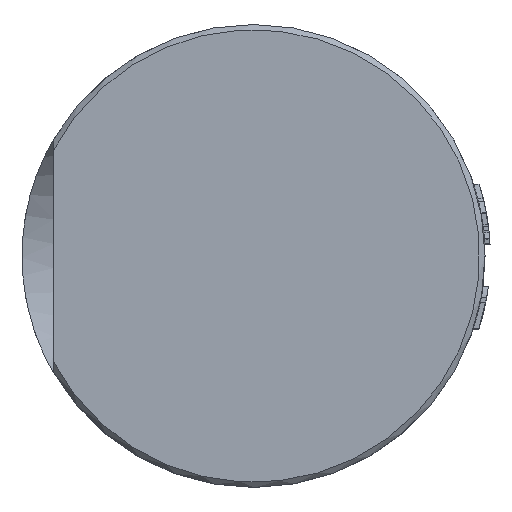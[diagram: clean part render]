
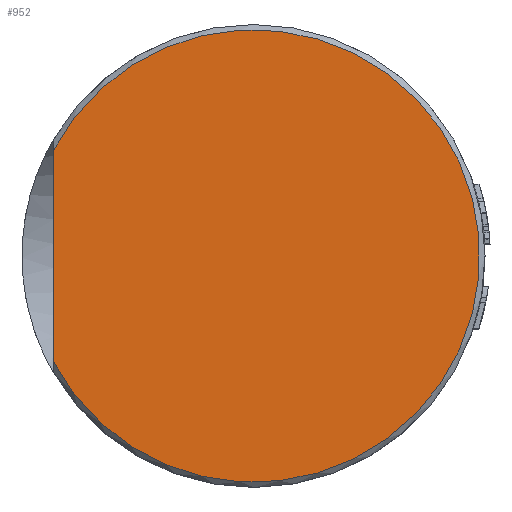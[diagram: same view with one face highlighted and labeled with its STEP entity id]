
A CAD part, front view. The second image highlights one B-rep face of the part: STEP entity #952.
In plain terms, the highlighted planar face has unit normal (0, -1, 0).
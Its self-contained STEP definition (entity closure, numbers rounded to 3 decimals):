
#263=CIRCLE('',#6281,21.5);
#541=PLANE('',#6283);
#669=LINE('',#26414,#1313);
#952=ADVANCED_FACE('',(#1600),#541,.T.);
#1313=VECTOR('',#7152,1.);
#1600=FACE_OUTER_BOUND('',#1955,.T.);
#1955=EDGE_LOOP('',(#3350,#3351));
#3350=ORIENTED_EDGE('',*,*,#5190,.F.);
#3351=ORIENTED_EDGE('',*,*,#5187,.T.);
#4344=VERTEX_POINT('',#26403);
#4345=VERTEX_POINT('',#26404);
#5187=EDGE_CURVE('',#4344,#4345,#263,.T.);
#5190=EDGE_CURVE('',#4344,#4345,#669,.T.);
#6281=AXIS2_PLACEMENT_3D('',#26402,#7148,#7149);
#6283=AXIS2_PLACEMENT_3D('',#26415,#7153,#7154);
#7148=DIRECTION('',(0.,-1.,0.));
#7149=DIRECTION('',(0.,0.,-1.));
#7152=DIRECTION('',(0.,0.,1.));
#7153=DIRECTION('',(0.,-1.,0.));
#7154=DIRECTION('',(0.,0.,1.));
#26402=CARTESIAN_POINT('',(0.,-35.,0.));
#26403=CARTESIAN_POINT('',(-19.,-35.,-10.062));
#26404=CARTESIAN_POINT('',(-19.,-35.,10.062));
#26414=CARTESIAN_POINT('',(-19.,-35.,0.));
#26415=CARTESIAN_POINT('',(22.,-35.,0.));
